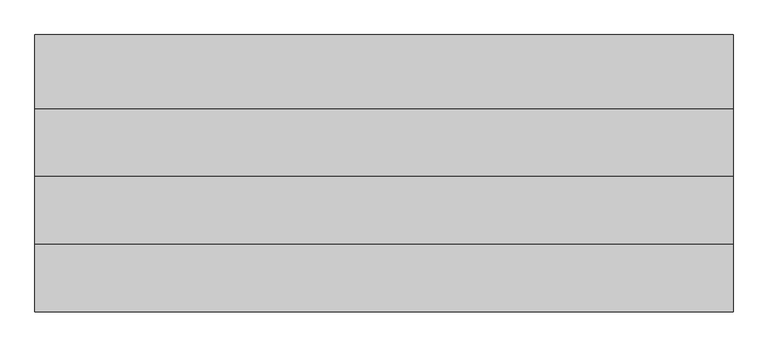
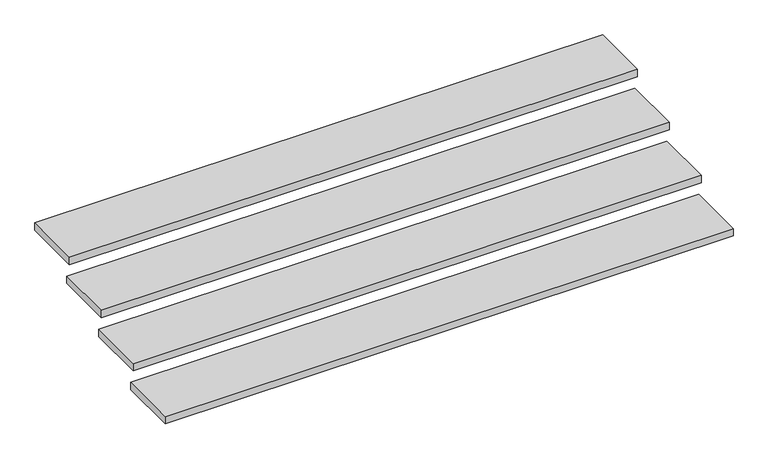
"""IFC4 building model written with IfcOpenShell, lengths in millimetres: stair flight geometry, Huellas: 50 mm Contrahuellas: 10 mm."""

from ifc_helpers import new_model, si_unit, frame, origin, place, context, project, spatial, polyline, outline, extrude, source, transform, mapped, element, save


def stair_flight_ad738636(model_context):
    return source(origin(), model_context, "Body", "SweptSolid", [
        extrude(outline(polyline([(-5995.8480416, -11683.403315), (-2334.865283, -11683.403315), (-2334.865283, -12069.303315), (-5995.8480416, -12069.303315), (-5995.8480416, -11683.403315)])), frame((0.0, 0.0, 96.0), z_axis=(0.0, 0.0, 1.0), x_axis=(1.0, 0.0, 0.0)), (0.0, 0.0, 1.0), 50.0),
        extrude(outline(polyline([(-5995.8480416, -11327.503315), (-2334.865283, -11327.503315), (-2334.865283, -11713.403315), (-5995.8480416, -11713.403315), (-5995.8480416, -11327.503315)])), frame((0.0, 0.0, 242.0), z_axis=(0.0, 0.0, 1.0), x_axis=(1.0, 0.0, 0.0)), (0.0, 0.0, 1.0), 50.0),
        extrude(outline(polyline([(-5995.8480416, -10971.603315), (-2334.865283, -10971.603315), (-2334.865283, -11357.503315), (-5995.8480416, -11357.503315), (-5995.8480416, -10971.603315)])), frame((0.0, 0.0, 388.0), z_axis=(0.0, 0.0, 1.0), x_axis=(1.0, 0.0, 0.0)), (0.0, 0.0, 1.0), 50.0),
        extrude(outline(polyline([(-5995.8480416, -10615.703315), (-2334.865283, -10615.703315), (-2334.865283, -11001.603315), (-5995.8480416, -11001.603315), (-5995.8480416, -10615.703315)])), frame((0.0, 0.0, 534.0), z_axis=(0.0, 0.0, 1.0), x_axis=(1.0, 0.0, 0.0)), (0.0, 0.0, 1.0), 50.0),
    ])


if __name__ == "__main__":
    model = new_model("IFC4")
    model_context = context("Model", 3, world=origin())
    ifc_project = project(units=[si_unit("LENGTHUNIT", "METRE", prefix="MILLI")], contexts=[model_context])
    site = spatial("IfcSite", under=ifc_project)
    building = spatial("IfcBuilding", under=site)
    placement = place(None, origin())
    stair_flight_shape = stair_flight_ad738636(model_context)
    element("IfcStairFlight", 1, ObjectType="Huellas: 50 mm Contrahuellas: 10 mm", at=placement, inside=building, context=model_context, shape_type="MappedRepresentation", body=[
        mapped(stair_flight_shape, transform((0.0, 0.0, 0.0), x_axis=(1.0, 0.0, 0.0), y_axis=(0.0, 1.0, 0.0), z_axis=(0.0, 0.0, 1.0))),
    ])
    save(model, "model.ifc")
